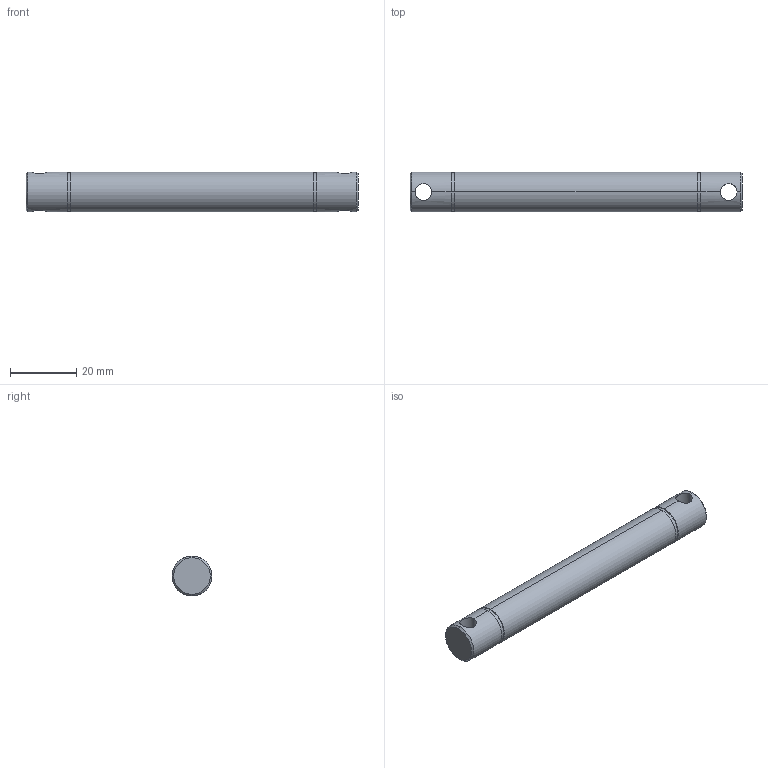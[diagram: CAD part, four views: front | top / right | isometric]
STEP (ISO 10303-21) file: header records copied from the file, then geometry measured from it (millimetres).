
FILE_DESCRIPTION (( 'STEP AP214' ), '1' );
FILE_NAME ('084.030.120.STEP', '2021-02-05T15:38:26', ( '' ), ( '' ), 'SwSTEP 2.0', 'SolidWorks 2018', '' );
FILE_SCHEMA (( 'AUTOMOTIVE_DESIGN' ));
Length unit declared in the file: millimetre
Products named in the file (1): 084.030.120
Bounding box: 100 x 12 x 12 mm (x, y, z)
Volume: 10819.5 mm3; surface area: 4286.5 mm2
Topology: 1 solids, 1 shells, 24 faces, 54 edges, 32 vertices
Faces by surface type: cylinder 14, plane 6, cone 4
Entity records: 976 total; most frequent: CARTESIAN_POINT 351, DIRECTION 120, ORIENTED_EDGE 108, EDGE_CURVE 54, AXIS2_PLACEMENT_3D 49, VERTEX_POINT 32, EDGE_LOOP 28, CIRCLE 24
